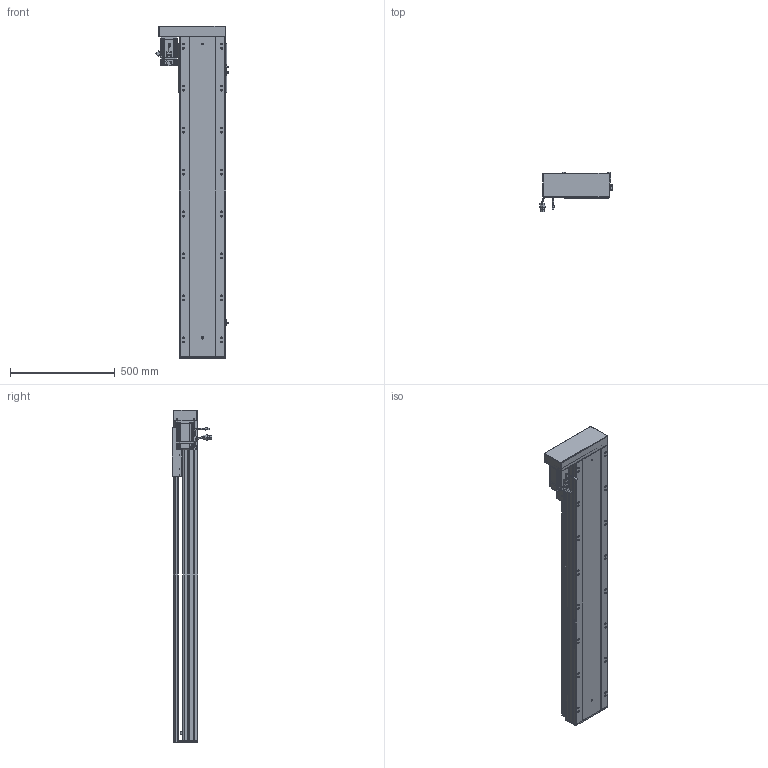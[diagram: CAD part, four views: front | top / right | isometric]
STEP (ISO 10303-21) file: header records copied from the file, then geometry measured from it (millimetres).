
FILE_DESCRIPTION (( 'STEP AP203' ), '1' );
FILE_NAME ('RY220-L2525-300-LK.SLDASM_1200.step', '2022-07-04T01:47:09', ( '' ), ( '' ), 'SwSTEP 2.0', 'SolidWorks 2016', '' );
FILE_SCHEMA (( 'CONFIG_CONTROL_DESIGN' ));
Length unit declared in the file: millimetre
Products named in the file (12): RY220左右折电机安装板; RY220-L2525-300-LK.SLDASM_1200; RY220蛌殏菁釱-300_1200; RY220-俋离672覜茼んえ; RY220綴裔啣; 怢湛750W_ECMA-CX0807ES; 覜茼ん672; 滅袉蝶18-10; RY220半封闭25-32螺母铝滑块; RY220酘衵殏萇儂欶; 滅袉蝶18-15; RY220-300-蛌殏奻裔啣_1200
Assembly tree (15 placements, depth 2):
  RY220-L2525-300-LK.SLDASM_1200
    RY220蛌殏菁釱-300_1200
    RY220-300-蛌殏奻裔啣_1200
    怢湛750W_ECMA-CX0807ES
    滅袉蝶18-10  x2
    RY220-俋离672覜茼んえ
    覜茼ん672  x3
    RY220綴裔啣
    RY220半封闭25-32螺母铝滑块
    滅袉蝶18-15  x2
    RY220左右折电机安装板
    RY220酘衵殏萇儂欶
Bounding box: 347.44 x 189.27 x 1582 mm (x, y, z)
Volume: 12856507.2 mm3; surface area: 3799291.1 mm2
Topology: 16 solids, 16 shells, 2193 faces, 6048 edges, 3817 vertices
Faces by surface type: cylinder 993, plane 896, cone 234, bspline 44, sphere 16, torus 10
Entity records: 72333 total; most frequent: CARTESIAN_POINT 20953, ORIENTED_EDGE 10656, DIRECTION 10048, EDGE_CURVE 5328, AXIS2_PLACEMENT_3D 3539, VERTEX_POINT 3473, VECTOR 2970, LINE 2970
